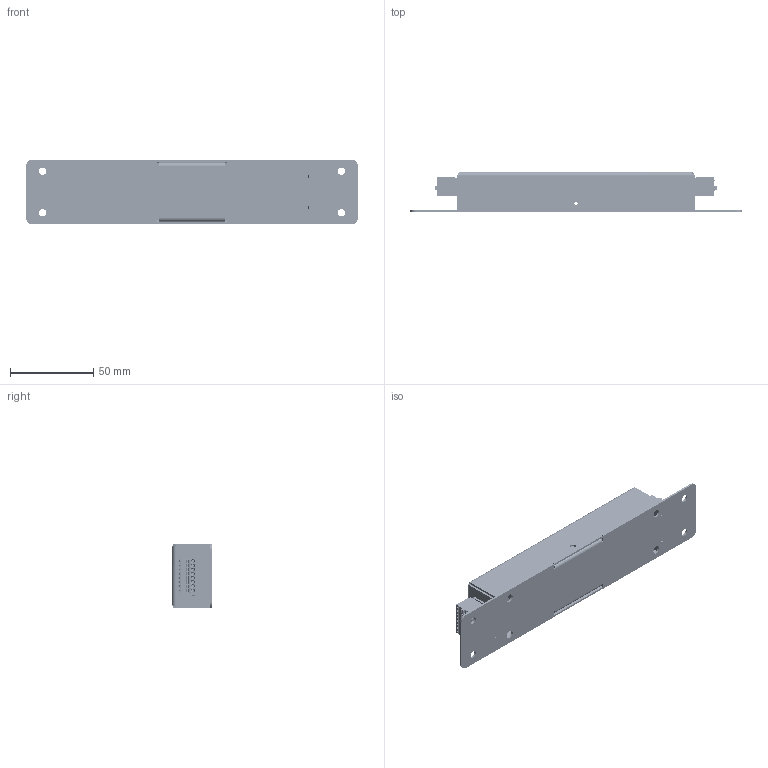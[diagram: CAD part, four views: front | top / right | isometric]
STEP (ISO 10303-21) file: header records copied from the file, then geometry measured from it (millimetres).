
FILE_DESCRIPTION (( 'STEP AP214' ), '1' );
FILE_NAME ('MEC432 Scatola DDS674.STEP', '2020-03-17T11:09:53', ( '' ), ( '' ), 'SwSTEP 2.0', 'SolidWorks 2020', '' );
FILE_SCHEMA (( 'AUTOMOTIVE_DESIGN' ));
Length unit declared in the file: millimetre
Products named in the file (194): Coilcraft-Q4470-CL-DEFAULT; L4 DDS674; 6872_4; 691381000006.stp; R8 DDS674; R37 DDS674; User_Library-res1210 DDS674; R36 DDS674; WE-SLM_744242 DDS674; U7 DDS674; R56 DDS674; 691381000006_BAS.stp; U1 DDS674; R20 DDS674; 691382010006_Download_STP_691382010006_rev1.stp; U3 DDS674; C19 DDS674; R4 DDS674; L9 DDS674; C8 DDS674; C18 DDS674; L8 DDS674; C16 DDS674; U9 DDS674; R45 DDS674; User_Library-V2220HD_User_Library-V2220HD-1_K_X_F6rper_1_1; R24 DDS674; D19 DDS674; R39 DDS674; D16 DDS674; L1 DDS674; 691381000008_Download_STP_691381000008_rev1; User_Library-DO-214AC(SMA); User_Library-so8-4; L飆fl踄he; R26 DDS674; C22 DDS674; DP_C6 DDS674; C5 DDS674; R49 DDS674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
Assembly tree (351 placements, depth 5):
  MEC432 Scatola DDS674
    MEC432.01.00 Base
    DDS674
      Board DDS674
      C1 DDS674
        0805_SMD_Resistor
      C10 DDS674
        User_Library-RES_1609-0603
      C11 DDS674
        User_Library-RES_1609-0603
      C12 DDS674
        User_Library-RES_1609-0603
      C13 DDS674
        0805_SMD_Resistor
      C14 DDS674
        User_Library-RES_1609-0603
      C15 DDS674
        User_Library-res1210 DDS674
          User_Library-res1210_pad_1210___
          User_Library-res1210_res1210_body___
      C16 DDS674
        0805_SMD_Resistor
      C17 DDS674
        0805_SMD_Resistor
      C18 DDS674
        User_Library-res1210 DDS674
          User_Library-res1210_pad_1210___
          User_Library-res1210_res1210_body___
      C19 DDS674
        0805_SMD_Resistor
      C2 DDS674
        User_Library-res1210 DDS674
          User_Library-res1210_pad_1210___
          User_Library-res1210_res1210_body___
      C20 DDS674
        0805_SMD_Resistor
      C21 DDS674
        User_Library-res1210 DDS674
          User_Library-res1210_pad_1210___
          User_Library-res1210_res1210_body___
      C22 DDS674
        0805_SMD_Resistor
      C23 DDS674
        0805_SMD_Resistor
      C24 DDS674
        User_Library-V2220HD DDS674
          User_Library-V2220HD_User_Library-V2220HD-1_K_X_F6rper_1_1
          User_Library-V2220HD_User_Library-V2220HD-1_Anschl_X_FCsse_1_1
      C25 DDS674
        0805_SMD_Resistor
      C26 DDS674
        0805_SMD_Resistor
      C27 DDS674
        0805_SMD_Resistor
      C28 DDS674
        User_Library-res1210 DDS674
          User_Library-res1210_pad_1210___
          User_Library-res1210_res1210_body___
      C29 DDS674
        User_Library-capasitores_electroliticos10x10,5
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Bounding box: 200 x 24.2 x 39 mm (x, y, z)
Volume: 45040.9 mm3; surface area: 80329.8 mm2
Topology: 415 solids, 415 shells, 17534 faces, 45517 edges, 29258 vertices
Faces by surface type: plane 10428, bspline 4537, cylinder 2461, cone 64, torus 36, sphere 8
Entity records: 348257 total; most frequent: CARTESIAN_POINT 132490, ORIENTED_EDGE 39638, DIRECTION 34398, EDGE_CURVE 19819, LINE 13838, VECTOR 13838, VERTEX_POINT 12664, AXIS2_PLACEMENT_3D 10280
